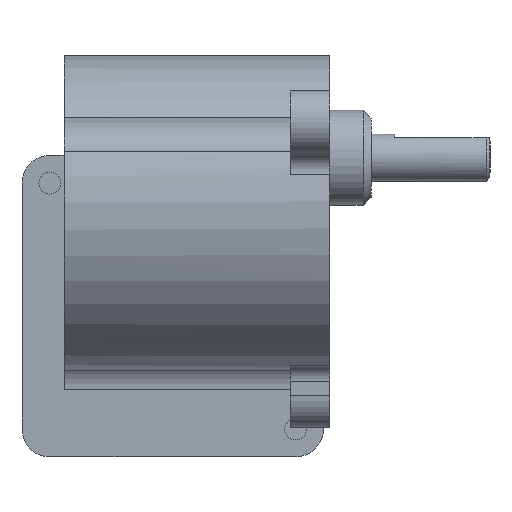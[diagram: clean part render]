
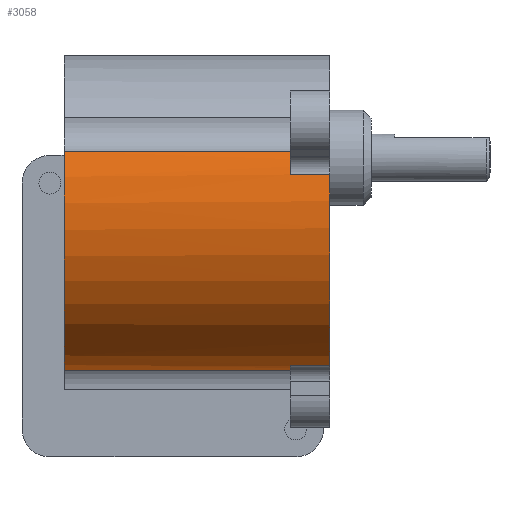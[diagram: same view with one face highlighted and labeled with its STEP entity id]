
A CAD part, left-side view. The second image highlights one B-rep face of the part: STEP entity #3058.
In plain terms, the highlighted cylindrical face has radius 20 mm (diameter 40 mm), a partial arc.
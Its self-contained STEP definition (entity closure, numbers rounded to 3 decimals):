
#175=CYLINDRICAL_SURFACE('',#3360,20.);
#258=FACE_OUTER_BOUND('',#446,.T.);
#446=EDGE_LOOP('',(#2123,#2124,#2125,#2126,#2127,#2128,#2129,#2130));
#680=CIRCLE('',#3361,20.);
#681=CIRCLE('',#3362,20.);
#682=CIRCLE('',#3363,20.);
#683=CIRCLE('',#3364,20.);
#870=LINE('',#4798,#1116);
#872=LINE('',#4806,#1118);
#873=LINE('',#4810,#1119);
#874=LINE('',#4814,#1120);
#1116=VECTOR('',#3777,10.);
#1118=VECTOR('',#3785,10.);
#1119=VECTOR('',#3788,10.);
#1120=VECTOR('',#3791,10.);
#1370=VERTEX_POINT('',#4795);
#1371=VERTEX_POINT('',#4797);
#1373=VERTEX_POINT('',#4803);
#1374=VERTEX_POINT('',#4805);
#1375=VERTEX_POINT('',#4807);
#1376=VERTEX_POINT('',#4809);
#1377=VERTEX_POINT('',#4811);
#1378=VERTEX_POINT('',#4813);
#1667=EDGE_CURVE('',#1370,#1371,#870,.T.);
#1670=EDGE_CURVE('',#1370,#1373,#680,.T.);
#1671=EDGE_CURVE('',#1373,#1374,#872,.T.);
#1672=EDGE_CURVE('',#1374,#1375,#681,.T.);
#1673=EDGE_CURVE('',#1375,#1376,#873,.T.);
#1674=EDGE_CURVE('',#1376,#1377,#682,.T.);
#1675=EDGE_CURVE('',#1378,#1377,#874,.T.);
#1676=EDGE_CURVE('',#1371,#1378,#683,.T.);
#2123=ORIENTED_EDGE('',*,*,#1667,.F.);
#2124=ORIENTED_EDGE('',*,*,#1670,.T.);
#2125=ORIENTED_EDGE('',*,*,#1671,.T.);
#2126=ORIENTED_EDGE('',*,*,#1672,.T.);
#2127=ORIENTED_EDGE('',*,*,#1673,.T.);
#2128=ORIENTED_EDGE('',*,*,#1674,.T.);
#2129=ORIENTED_EDGE('',*,*,#1675,.F.);
#2130=ORIENTED_EDGE('',*,*,#1676,.F.);
#3058=ADVANCED_FACE('',(#258),#175,.T.);
#3360=AXIS2_PLACEMENT_3D('',#4802,#3781,#3782);
#3361=AXIS2_PLACEMENT_3D('',#4804,#3783,#3784);
#3362=AXIS2_PLACEMENT_3D('',#4808,#3786,#3787);
#3363=AXIS2_PLACEMENT_3D('',#4812,#3789,#3790);
#3364=AXIS2_PLACEMENT_3D('',#4815,#3792,#3793);
#3777=DIRECTION('',(0.,-1.,0.));
#3781=DIRECTION('center_axis',(0.,1.,0.));
#3782=DIRECTION('ref_axis',(-0.866,0.,-0.5));
#3783=DIRECTION('center_axis',(0.,1.,0.));
#3784=DIRECTION('ref_axis',(1.,0.,0.));
#3785=DIRECTION('',(0.,1.,0.));
#3786=DIRECTION('center_axis',(0.,-1.,0.));
#3787=DIRECTION('ref_axis',(1.,0.,0.));
#3788=DIRECTION('',(0.,-1.,0.));
#3789=DIRECTION('center_axis',(0.,1.,0.));
#3790=DIRECTION('ref_axis',(1.,0.,0.));
#3791=DIRECTION('',(0.,1.,0.));
#3792=DIRECTION('center_axis',(0.,-1.,0.));
#3793=DIRECTION('ref_axis',(1.,0.,0.));
#4795=CARTESIAN_POINT('',(-19.391,5.,4.897));
#4797=CARTESIAN_POINT('',(-19.391,0.,4.897));
#4798=CARTESIAN_POINT('',(-19.391,0.,4.897));
#4802=CARTESIAN_POINT('Origin',(0.,0.,0.));
#4803=CARTESIAN_POINT('',(-18.42,5.,7.791));
#4804=CARTESIAN_POINT('Origin',(0.,5.,0.));
#4805=CARTESIAN_POINT('',(-18.42,33.5,7.791));
#4806=CARTESIAN_POINT('',(-18.42,33.5,7.791));
#4807=CARTESIAN_POINT('',(-2.462,33.5,-19.848));
#4808=CARTESIAN_POINT('Origin',(0.,33.5,0.));
#4809=CARTESIAN_POINT('',(-2.462,5.,-19.848));
#4810=CARTESIAN_POINT('',(-2.462,33.5,-19.848));
#4811=CARTESIAN_POINT('',(-5.455,5.,-19.242));
#4812=CARTESIAN_POINT('Origin',(0.,5.,0.));
#4813=CARTESIAN_POINT('',(-5.455,0.,-19.242));
#4814=CARTESIAN_POINT('',(-5.455,0.,-19.242));
#4815=CARTESIAN_POINT('Origin',(0.,0.,0.));
